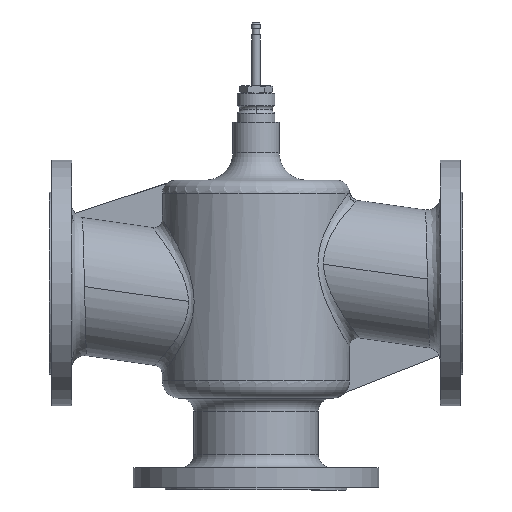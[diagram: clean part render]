
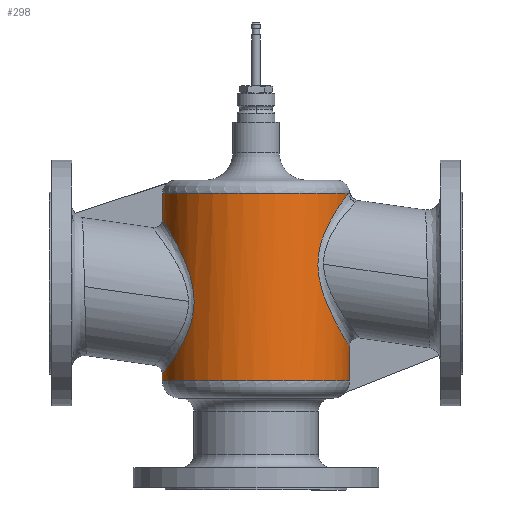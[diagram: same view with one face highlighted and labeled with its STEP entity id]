
A CAD part, left-side view. The second image highlights one B-rep face of the part: STEP entity #298.
In plain terms, the highlighted cylindrical face has radius 108.672 mm (diameter 217.344 mm), a partial arc.
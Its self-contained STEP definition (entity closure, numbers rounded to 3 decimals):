
#142=FACE_OUTER_BOUND('',#665,.T.);
#298=ADVANCED_FACE('',(#142),#468,.T.);
#468=CYLINDRICAL_SURFACE('',#3121,108.672);
#665=EDGE_LOOP('',(#1257,#1258,#1259,#1260,#1261,#1262,#1263));
#913=CIRCLE('',#3108,108.672);
#917=CIRCLE('',#3115,108.672);
#1147=B_SPLINE_CURVE_WITH_KNOTS('',3,(#4791,#4792,#4793,#4794,#4795,#4796,
#4797,#4798,#4799,#4800,#4801,#4802,#4803,#4804,#4805,#4806,#4807,#4808,
#4809,#4810,#4811,#4812,#4813,#4814,#4815,#4816),.UNSPECIFIED.,.F.,.F.,(4,
2,2,2,2,2,2,2,2,2,2,2,4),(0.,0.075,0.171,0.267,
0.363,0.452,0.5,0.548,
0.612,0.715,0.814,0.929,
1.),.UNSPECIFIED.);
#1152=B_SPLINE_CURVE_WITH_KNOTS('',3,(#5571,#5572,#5573,#5574,#5575,#5576,
#5577,#5578,#5579,#5580,#5581,#5582,#5583,#5584,#5585,#5586,#5587,#5588,
#5589,#5590,#5591,#5592,#5593,#5594,#5595,#5596),.UNSPECIFIED.,.F.,.F.,(4,
2,2,2,2,2,2,2,2,2,2,2,4),(0.,0.011,0.113,0.216,
0.318,0.414,0.465,0.517,
0.586,0.695,0.802,0.921,1.),
 .UNSPECIFIED.);
#1257=ORIENTED_EDGE('',*,*,#2361,.T.);
#1258=ORIENTED_EDGE('',*,*,#2399,.F.);
#1259=ORIENTED_EDGE('',*,*,#2428,.T.);
#1260=ORIENTED_EDGE('',*,*,#2429,.F.);
#1261=ORIENTED_EDGE('',*,*,#2415,.F.);
#1262=ORIENTED_EDGE('',*,*,#2424,.T.);
#1263=ORIENTED_EDGE('',*,*,#2421,.F.);
#2068=VERTEX_POINT('',#4414);
#2069=VERTEX_POINT('',#4415);
#2102=VERTEX_POINT('',#4653);
#2116=VERTEX_POINT('',#4767);
#2117=VERTEX_POINT('',#4769);
#2121=VERTEX_POINT('',#4817);
#2124=VERTEX_POINT('',#5570);
#2361=EDGE_CURVE('',#2068,#2069,#2804,.T.);
#2399=EDGE_CURVE('',#2102,#2069,#913,.T.);
#2415=EDGE_CURVE('',#2116,#2117,#917,.T.);
#2421=EDGE_CURVE('',#2068,#2121,#1147,.T.);
#2424=EDGE_CURVE('',#2116,#2121,#2818,.T.);
#2428=EDGE_CURVE('',#2102,#2124,#2820,.T.);
#2429=EDGE_CURVE('',#2117,#2124,#1152,.T.);
#2804=LINE('',#4413,#2945);
#2818=LINE('',#5556,#2959);
#2820=LINE('',#5569,#2961);
#2945=VECTOR('',#3483,1.);
#2959=VECTOR('',#3563,1.);
#2961=VECTOR('',#3567,1.);
#3108=AXIS2_PLACEMENT_3D('',#4654,#3536,#3537);
#3115=AXIS2_PLACEMENT_3D('',#4768,#3553,#3554);
#3121=AXIS2_PLACEMENT_3D('',#5597,#3568,#3569);
#3483=DIRECTION('',(0.,0.,-1.));
#3536=DIRECTION('',(0.,0.,-1.));
#3537=DIRECTION('',(0.,-1.,0.));
#3553=DIRECTION('',(0.,0.,1.));
#3554=DIRECTION('',(1.,0.,0.));
#3563=DIRECTION('',(0.,0.,-1.));
#3567=DIRECTION('',(0.,0.,1.));
#3568=DIRECTION('',(0.,0.,-1.));
#3569=DIRECTION('',(0.,-1.,0.));
#4413=CARTESIAN_POINT('',(0.,588.672,-105.371));
#4414=CARTESIAN_POINT('',(0.,588.672,-105.371));
#4415=CARTESIAN_POINT('',(0.,588.672,-113.454));
#4653=CARTESIAN_POINT('',(-5.998,371.493,-113.454));
#4654=CARTESIAN_POINT('',(0.,480.,-113.454));
#4767=CARTESIAN_POINT('',(-5.998,588.507,104.373));
#4768=CARTESIAN_POINT('',(0.,480.,104.373));
#4769=CARTESIAN_POINT('',(-16.951,372.658,104.373));
#4791=CARTESIAN_POINT('',(0.,588.672,-105.371));
#4792=CARTESIAN_POINT('',(-6.58,588.672,-105.371));
#4793=CARTESIAN_POINT('',(-13.243,588.057,-104.568));
#4794=CARTESIAN_POINT('',(-27.705,585.403,-101.028));
#4795=CARTESIAN_POINT('',(-35.31,583.051,-97.868));
#4796=CARTESIAN_POINT('',(-49.26,577.165,-89.465));
#4797=CARTESIAN_POINT('',(-55.461,573.678,-84.293));
#4798=CARTESIAN_POINT('',(-66.107,566.489,-72.264));
#4799=CARTESIAN_POINT('',(-70.519,562.817,-65.495));
#4800=CARTESIAN_POINT('',(-77.159,556.651,-50.699));
#4801=CARTESIAN_POINT('',(-79.473,554.14,-42.727));
#4802=CARTESIAN_POINT('',(-81.264,552.157,-29.873));
#4803=CARTESIAN_POINT('',(-81.567,551.809,-25.229));
#4804=CARTESIAN_POINT('',(-81.516,551.867,-15.994));
#4805=CARTESIAN_POINT('',(-81.171,552.263,-11.427));
#4806=CARTESIAN_POINT('',(-79.699,553.887,-0.919));
#4807=CARTESIAN_POINT('',(-78.347,555.349,4.942));
#4808=CARTESIAN_POINT('',(-73.82,559.848,19.335));
#4809=CARTESIAN_POINT('',(-70.023,563.314,27.528));
#4810=CARTESIAN_POINT('',(-60.74,570.294,42.315));
#4811=CARTESIAN_POINT('',(-55.359,573.78,48.868));
#4812=CARTESIAN_POINT('',(-41.83,580.627,61.181));
#4813=CARTESIAN_POINT('',(-33.445,583.843,66.569));
#4814=CARTESIAN_POINT('',(-18.299,587.284,72.269));
#4815=CARTESIAN_POINT('',(-12.208,588.158,73.691));
#4816=CARTESIAN_POINT('',(-5.998,588.504,74.253));
#4817=CARTESIAN_POINT('',(-5.998,588.507,74.256));
#5556=CARTESIAN_POINT('',(-5.998,588.507,104.373));
#5569=CARTESIAN_POINT('',(-5.998,371.493,-113.454));
#5570=CARTESIAN_POINT('',(-5.998,371.493,-73.496));
#5571=CARTESIAN_POINT('',(-16.951,372.659,104.372));
#5572=CARTESIAN_POINT('',(-17.843,372.799,104.185));
#5573=CARTESIAN_POINT('',(-18.73,372.95,103.984));
#5574=CARTESIAN_POINT('',(-27.704,374.597,101.788));
#5575=CARTESIAN_POINT('',(-35.309,376.949,98.628));
#5576=CARTESIAN_POINT('',(-49.243,382.828,90.235));
#5577=CARTESIAN_POINT('',(-55.431,386.305,85.077));
#5578=CARTESIAN_POINT('',(-66.071,393.484,73.072));
#5579=CARTESIAN_POINT('',(-70.487,397.156,66.309));
#5580=CARTESIAN_POINT('',(-77.136,403.326,51.525));
#5581=CARTESIAN_POINT('',(-79.455,405.841,43.559));
#5582=CARTESIAN_POINT('',(-81.259,407.837,30.697));
#5583=CARTESIAN_POINT('',(-81.566,408.19,26.038));
#5584=CARTESIAN_POINT('',(-81.517,408.135,16.774));
#5585=CARTESIAN_POINT('',(-81.172,407.739,12.192));
#5586=CARTESIAN_POINT('',(-79.695,406.109,1.656));
#5587=CARTESIAN_POINT('',(-78.339,404.642,-4.218));
#5588=CARTESIAN_POINT('',(-73.795,400.129,-18.638));
#5589=CARTESIAN_POINT('',(-69.984,396.652,-26.849));
#5590=CARTESIAN_POINT('',(-60.65,389.643,-41.681));
#5591=CARTESIAN_POINT('',(-55.226,386.138,-48.262));
#5592=CARTESIAN_POINT('',(-41.847,379.398,-60.369));
#5593=CARTESIAN_POINT('',(-33.74,376.282,-65.599));
#5594=CARTESIAN_POINT('',(-18.734,372.78,-71.405));
#5595=CARTESIAN_POINT('',(-12.429,371.855,-72.911));
#5596=CARTESIAN_POINT('',(-5.998,371.496,-73.494));
#5597=CARTESIAN_POINT('',(0.,480.,-7.041));
